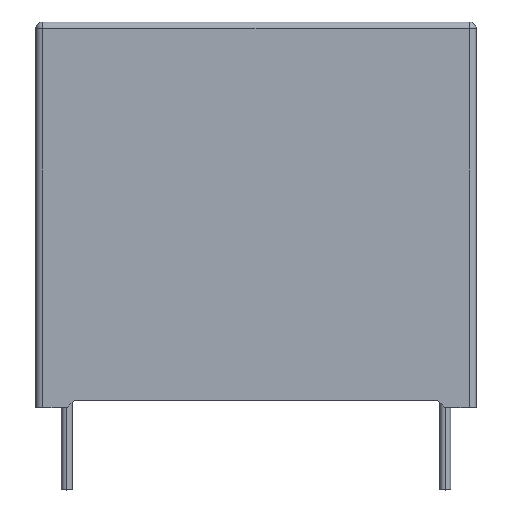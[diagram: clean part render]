
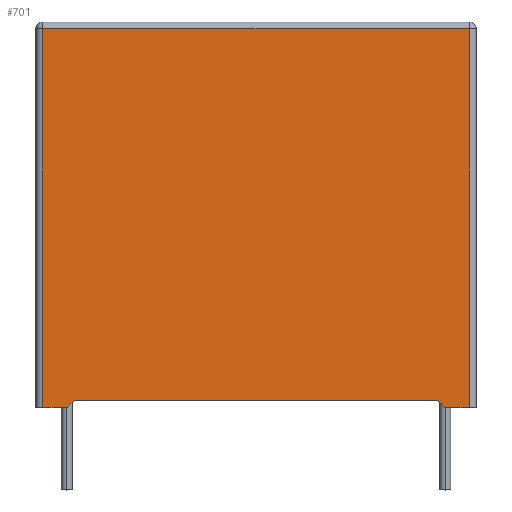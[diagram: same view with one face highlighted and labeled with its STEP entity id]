
A CAD part, top view. The second image highlights one B-rep face of the part: STEP entity #701.
In plain terms, the highlighted planar face has unit normal (0, 0, 1).
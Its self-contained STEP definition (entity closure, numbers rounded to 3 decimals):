
#6 = VECTOR ( 'NONE', #2298, 1000. ) ;
#30 = VECTOR ( 'NONE', #596, 1000. ) ;
#48 = CARTESIAN_POINT ( 'NONE',  ( -16., 27.5, 9. ) ) ;
#171 = VECTOR ( 'NONE', #2418, 1000. ) ;
#273 = EDGE_CURVE ( 'NONE', #2729, #2881, #903, .T. ) ;
#274 = CARTESIAN_POINT ( 'NONE',  ( 15.5, 27.5, 9. ) ) ;
#286 = LINE ( 'NONE', #3020, #30 ) ;
#501 = LINE ( 'NONE', #1003, #171 ) ;
#596 = DIRECTION ( 'NONE',  ( 1., 0., 0. ) ) ;
#701 = ADVANCED_FACE ( 'NONE', ( #4105 ), #2795, .F. ) ;
#828 = LINE ( 'NONE', #1624, #1401 ) ;
#897 = VECTOR ( 'NONE', #2493, 1000. ) ;
#903 = LINE ( 'NONE', #2631, #897 ) ;
#927 = CARTESIAN_POINT ( 'NONE',  ( 15.5, 0., 9. ) ) ;
#1003 = CARTESIAN_POINT ( 'NONE',  ( 15.5, 28., 9. ) ) ;
#1043 = EDGE_CURVE ( 'NONE', #2844, #2126, #501, .T. ) ;
#1050 = EDGE_CURVE ( 'NONE', #3559, #3563, #286, .T. ) ;
#1090 = CARTESIAN_POINT ( 'NONE',  ( -13.7, 0., 9. ) ) ;
#1109 = CARTESIAN_POINT ( 'NONE',  ( -13.7, 0., 9. ) ) ;
#1401 = VECTOR ( 'NONE', #1993, 1000. ) ;
#1617 = CARTESIAN_POINT ( 'NONE',  ( -16., 0., 9. ) ) ;
#1624 = CARTESIAN_POINT ( 'NONE',  ( -15.5, 28., 9. ) ) ;
#1630 = CARTESIAN_POINT ( 'NONE',  ( -13.2, 0.5, 9. ) ) ;
#1685 = CARTESIAN_POINT ( 'NONE',  ( 13.2, 0.5, 9. ) ) ;
#1705 = EDGE_CURVE ( 'NONE', #2126, #3485, #3846, .T. ) ;
#1954 = EDGE_LOOP ( 'NONE', ( #2527, #2550, #2819, #2909, #3625, #3795, #3887, #4004 ) ) ;
#1993 = DIRECTION ( 'NONE',  ( 0., -1., 0. ) ) ;
#2043 = VECTOR ( 'NONE', #3768, 1000. ) ;
#2068 = EDGE_CURVE ( 'NONE', #2917, #3563, #3690, .T. ) ;
#2126 = VERTEX_POINT ( 'NONE', #274 ) ;
#2156 = LINE ( 'NONE', #1630, #2043 ) ;
#2164 = CARTESIAN_POINT ( 'NONE',  ( -15.5, 27.5, 9. ) ) ;
#2298 = DIRECTION ( 'NONE',  ( 1., 0., 0. ) ) ;
#2418 = DIRECTION ( 'NONE',  ( 0., 1., 0. ) ) ;
#2493 = DIRECTION ( 'NONE',  ( -0.707, 0.707, 0. ) ) ;
#2527 = ORIENTED_EDGE ( 'NONE', *, *, #2701, .F. ) ;
#2550 = ORIENTED_EDGE ( 'NONE', *, *, #273, .F. ) ;
#2601 = EDGE_CURVE ( 'NONE', #2729, #2844, #3451, .T. ) ;
#2631 = CARTESIAN_POINT ( 'NONE',  ( 13.2, 0.5, 9. ) ) ;
#2648 = CARTESIAN_POINT ( 'NONE',  ( 13.7, 0., 9. ) ) ;
#2672 = DIRECTION ( 'NONE',  ( -1., 0., 0. ) ) ;
#2683 = CARTESIAN_POINT ( 'NONE',  ( -13.2, 0.5, 9. ) ) ;
#2701 = EDGE_CURVE ( 'NONE', #2881, #2917, #2156, .T. ) ;
#2729 = VERTEX_POINT ( 'NONE', #2648 ) ;
#2770 = DIRECTION ( 'NONE',  ( -1., 0., 0. ) ) ;
#2780 = DIRECTION ( 'NONE',  ( 0., 0., -1. ) ) ;
#2795 = PLANE ( 'NONE',  #4085 ) ;
#2819 = ORIENTED_EDGE ( 'NONE', *, *, #2601, .T. ) ;
#2844 = VERTEX_POINT ( 'NONE', #927 ) ;
#2850 = CARTESIAN_POINT ( 'NONE',  ( -16., 28., 9. ) ) ;
#2881 = VERTEX_POINT ( 'NONE', #1685 ) ;
#2909 = ORIENTED_EDGE ( 'NONE', *, *, #1043, .T. ) ;
#2917 = VERTEX_POINT ( 'NONE', #2683 ) ;
#3020 = CARTESIAN_POINT ( 'NONE',  ( -16., 0., 9. ) ) ;
#3380 = VECTOR ( 'NONE', #2672, 1000. ) ;
#3451 = LINE ( 'NONE', #1617, #6 ) ;
#3485 = VERTEX_POINT ( 'NONE', #2164 ) ;
#3559 = VERTEX_POINT ( 'NONE', #3655 ) ;
#3563 = VERTEX_POINT ( 'NONE', #1090 ) ;
#3625 = ORIENTED_EDGE ( 'NONE', *, *, #1705, .T. ) ;
#3655 = CARTESIAN_POINT ( 'NONE',  ( -15.5, 0., 9. ) ) ;
#3690 = LINE ( 'NONE', #1109, #4292 ) ;
#3768 = DIRECTION ( 'NONE',  ( -1., 0., 0. ) ) ;
#3795 = ORIENTED_EDGE ( 'NONE', *, *, #4200, .T. ) ;
#3846 = LINE ( 'NONE', #48, #3380 ) ;
#3887 = ORIENTED_EDGE ( 'NONE', *, *, #1050, .T. ) ;
#3933 = DIRECTION ( 'NONE',  ( -0.707, -0.707, 0. ) ) ;
#4004 = ORIENTED_EDGE ( 'NONE', *, *, #2068, .F. ) ;
#4085 = AXIS2_PLACEMENT_3D ( 'NONE', #2850, #2780, #2770 ) ;
#4105 = FACE_OUTER_BOUND ( 'NONE', #1954, .T. ) ;
#4200 = EDGE_CURVE ( 'NONE', #3485, #3559, #828, .T. ) ;
#4292 = VECTOR ( 'NONE', #3933, 1000. ) ;
